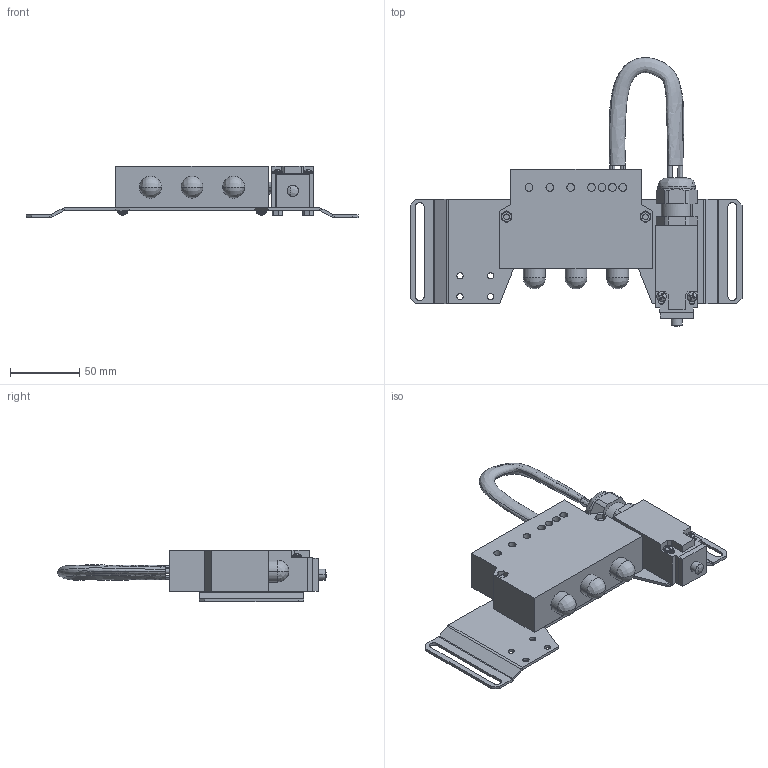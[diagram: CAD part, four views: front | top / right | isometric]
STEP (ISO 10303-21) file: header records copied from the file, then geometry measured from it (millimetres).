
FILE_DESCRIPTION(/* description */ (''),/* implementation_level */ '2;1');
FILE_NAME(/* name */ 'FD02',/* time_stamp */ '2019-07-02T09:17:40+02:00',/* author */ (''),/* organization */ (''),/* preprocessor_version */ 'ST-DEVELOPER v14',/* originating_system */ '',/* authorisation */ '');
FILE_SCHEMA (('CONFIG_CONTROL_DESIGN'));
Length unit declared in the file: millimetre
Products named in the file (1): Document
Bounding box: 239 x 193.61 x 37 mm (x, y, z)
Volume: 309731.2 mm3; surface area: 93669 mm2
Topology: 11 solids, 19 shells, 569 faces, 1497 edges, 892 vertices
Faces by surface type: bspline 301, plane 268
Entity records: 24641 total; most frequent: CARTESIAN_POINT 15819, ORIENTED_EDGE 2777, EDGE_CURVE 1485, VERTEX_POINT 892, B_SPLINE_CURVE_WITH_KNOTS 866, EDGE_LOOP 647, ADVANCED_FACE 569, FACE_OUTER_BOUND 569
